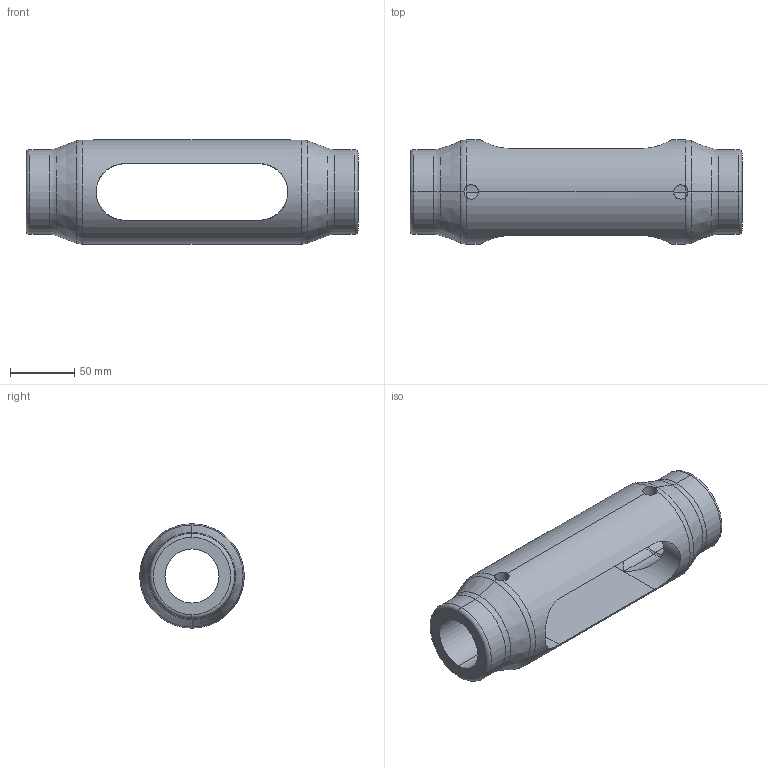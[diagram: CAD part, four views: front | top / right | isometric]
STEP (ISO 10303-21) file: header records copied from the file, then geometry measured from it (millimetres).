
FILE_DESCRIPTION (( 'STEP AP203' ), '1' );
FILE_NAME ('Kreuzmuffe M42.STEP', '2018-03-14T05:21:14', ( 'install' ), ( 'Hewlett-Packard Company' ), 'SwSTEP 2.0', 'SolidWorks 2017', '' );
FILE_SCHEMA (( 'CONFIG_CONTROL_DESIGN' ));
Length unit declared in the file: millimetre
Products named in the file (1): Kreuzmuffe M42
Bounding box: 258 x 80.99 x 81 mm (x, y, z)
Volume: 577588.7 mm3; surface area: 92355.8 mm2
Topology: 1 solids, 1 shells, 45 faces, 111 edges, 62 vertices
Faces by surface type: cylinder 22, torus 15, cone 4, plane 4
Entity records: 1883 total; most frequent: CARTESIAN_POINT 759, DIRECTION 224, ORIENTED_EDGE 222, EDGE_CURVE 111, AXIS2_PLACEMENT_3D 95, VERTEX_POINT 62, CIRCLE 49, EDGE_LOOP 49
